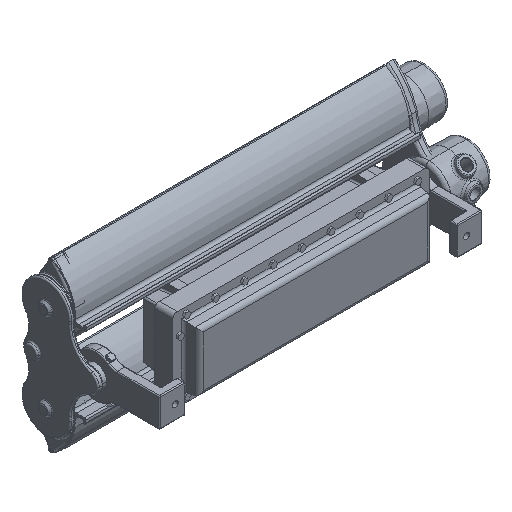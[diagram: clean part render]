
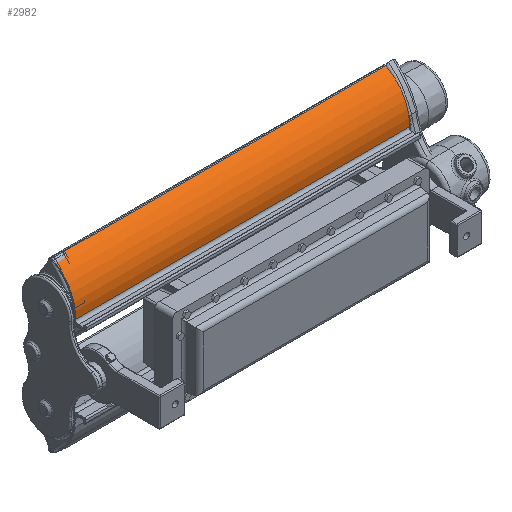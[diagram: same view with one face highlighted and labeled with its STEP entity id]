
A CAD part, isometric view. The second image highlights one B-rep face of the part: STEP entity #2982.
In plain terms, the highlighted cylindrical face has radius 76.103 mm (diameter 152.207 mm), a partial arc.
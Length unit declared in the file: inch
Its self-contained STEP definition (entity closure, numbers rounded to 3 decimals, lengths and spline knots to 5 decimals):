
#883 = CYLINDRICAL_SURFACE ( 'NONE', #23373, 2.9962 ) ;
#1266 = CARTESIAN_POINT ( 'NONE',  ( -3.56685, 1.00178, -20.60837 ) ) ;
#1657 = EDGE_CURVE ( 'NONE', #13332, #10503, #17601, .T. ) ;
#2263 = ORIENTED_EDGE ( 'NONE', *, *, #15010, .T. ) ;
#2264 = VERTEX_POINT ( 'NONE', #13155 ) ;
#2709 = ORIENTED_EDGE ( 'NONE', *, *, #25918, .F. ) ;
#2982 = ADVANCED_FACE ( 'NONE', ( #20355 ), #883, .T. ) ;
#4301 = DIRECTION ( 'NONE',  ( 0., 0., -1. ) ) ;
#5248 = DIRECTION ( 'NONE',  ( 0., 0., -1. ) ) ;
#5655 = CIRCLE ( 'NONE', #19576, 2.9962 ) ;
#7704 = EDGE_CURVE ( 'NONE', #32212, #2264, #5655, .T. ) ;
#7736 = CARTESIAN_POINT ( 'NONE',  ( -3.56685, 1.00178, 2.51663 ) ) ;
#9392 = VECTOR ( 'NONE', #32418, 39.37008 ) ;
#10503 = VERTEX_POINT ( 'NONE', #29328 ) ;
#13155 = CARTESIAN_POINT ( 'NONE',  ( -0.72722, -0.63033, 2.51663 ) ) ;
#13332 = VERTEX_POINT ( 'NONE', #1266 ) ;
#13341 = AXIS2_PLACEMENT_3D ( 'NONE', #34185, #5248, #33649 ) ;
#13656 = DIRECTION ( 'NONE',  ( 1., 0., 0. ) ) ;
#15010 = EDGE_CURVE ( 'NONE', #13332, #32212, #17232, .T. ) ;
#15218 = DIRECTION ( 'NONE',  ( 0., 0., 1. ) ) ;
#15419 = CARTESIAN_POINT ( 'NONE',  ( -3.39734, -1.98962, -20.60837 ) ) ;
#15695 = EDGE_LOOP ( 'NONE', ( #20280, #2263, #26732, #2709 ) ) ;
#17232 = LINE ( 'NONE', #23790, #9392 ) ;
#17601 = CIRCLE ( 'NONE', #13341, 2.9962 ) ;
#19576 = AXIS2_PLACEMENT_3D ( 'NONE', #21988, #4301, #24932 ) ;
#20280 = ORIENTED_EDGE ( 'NONE', *, *, #1657, .F. ) ;
#20355 = FACE_OUTER_BOUND ( 'NONE', #15695, .T. ) ;
#21988 = CARTESIAN_POINT ( 'NONE',  ( -3.39734, -1.98962, 2.51663 ) ) ;
#22854 = LINE ( 'NONE', #31958, #29638 ) ;
#23373 = AXIS2_PLACEMENT_3D ( 'NONE', #15419, #15218, #13656 ) ;
#23790 = CARTESIAN_POINT ( 'NONE',  ( -3.56685, 1.00178, -20.60837 ) ) ;
#24932 = DIRECTION ( 'NONE',  ( -1., 0., 0. ) ) ;
#25918 = EDGE_CURVE ( 'NONE', #10503, #2264, #22854, .T. ) ;
#26732 = ORIENTED_EDGE ( 'NONE', *, *, #7704, .T. ) ;
#29328 = CARTESIAN_POINT ( 'NONE',  ( -0.72722, -0.63033, -20.60837 ) ) ;
#29638 = VECTOR ( 'NONE', #34849, 39.37008 ) ;
#31958 = CARTESIAN_POINT ( 'NONE',  ( -0.72722, -0.63033, -20.60837 ) ) ;
#32212 = VERTEX_POINT ( 'NONE', #7736 ) ;
#32418 = DIRECTION ( 'NONE',  ( 0., 0., 1. ) ) ;
#33649 = DIRECTION ( 'NONE',  ( -1., 0., 0. ) ) ;
#34185 = CARTESIAN_POINT ( 'NONE',  ( -3.39734, -1.98962, -20.60837 ) ) ;
#34849 = DIRECTION ( 'NONE',  ( 0., 0., 1. ) ) ;
